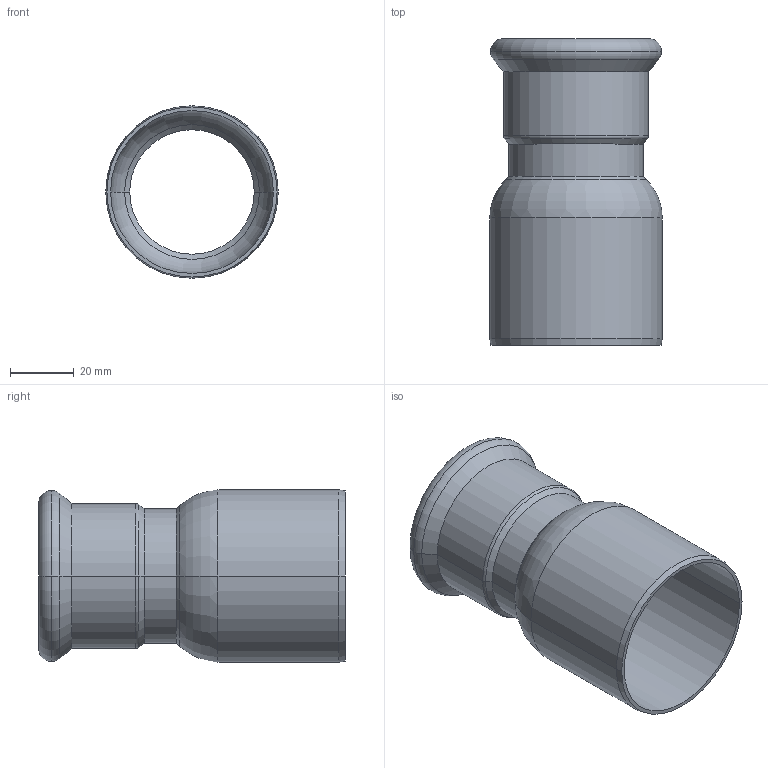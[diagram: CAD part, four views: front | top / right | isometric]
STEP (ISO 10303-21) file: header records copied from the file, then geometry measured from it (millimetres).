
FILE_DESCRIPTION(('CoCreate Modeling STEP Export'),'2;1');
FILE_NAME('C1407 42x54.stp','2014-11-07T16:36:17',(''),(''),'CoCreate Modeling STEP processor for AP214 (Solid Model)','CoCreate Modeling 17.00A 17-Jun-2010 (C) Parametric Technology GmbH','');
FILE_SCHEMA(('AUTOMOTIVE_DESIGN { 1 0 10303 214 1 1 1 1 }'));
Length unit declared in the file: millimetre
Products named in the file (2): C1407_42x54
Assembly tree (1 placements, depth 2):
  C1407_42x54
    C1407_42x54
Bounding box: 54 x 96 x 54 mm (x, y, z)
Volume: 26954.2 mm3; surface area: 30831.1 mm2
Topology: 1 solids, 1 shells, 38 faces, 78 edges, 44 vertices
Faces by surface type: cylinder 14, cone 10, torus 10, plane 4
Entity records: 848 total; most frequent: ORIENTED_EDGE 156, DIRECTION 130, CARTESIAN_POINT 121, EDGE_CURVE 78, AXIS2_PLACEMENT_3D 53, VERTEX_POINT 44, EDGE_LOOP 42, FACE_OUTER_BOUND 38
